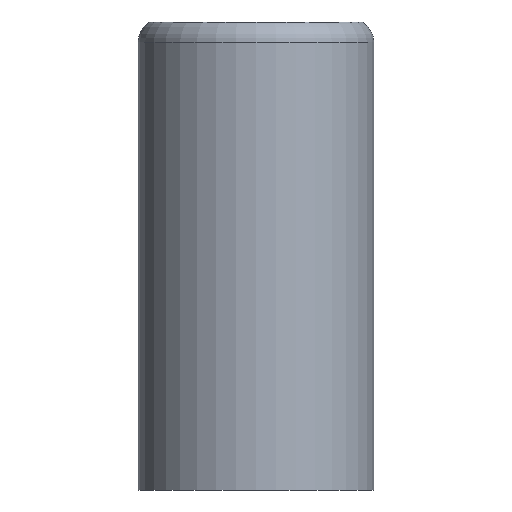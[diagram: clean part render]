
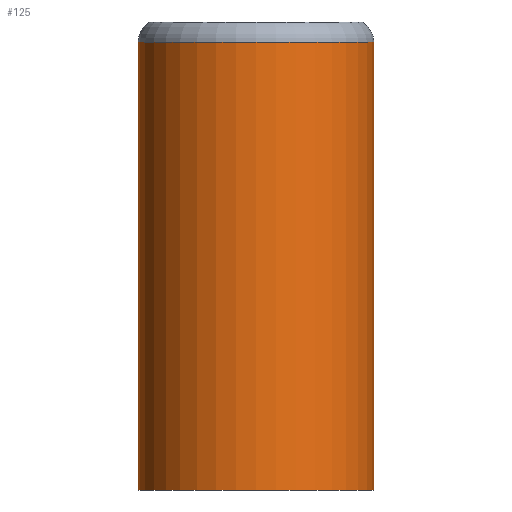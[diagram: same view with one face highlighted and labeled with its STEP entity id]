
A CAD part, front view. The second image highlights one B-rep face of the part: STEP entity #125.
In plain terms, the highlighted cylindrical face has radius 5 mm (diameter 10 mm), a full revolution.
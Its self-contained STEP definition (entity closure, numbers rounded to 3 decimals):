
#125=ADVANCED_FACE('',(#224,#226),#228,.T.);
#224=FACE_OUTER_BOUND('',#225,.T.);
#225=EDGE_LOOP('',(#267));
#226=FACE_OUTER_BOUND('',#227,.T.);
#227=EDGE_LOOP('',(#268));
#228=CYLINDRICAL_SURFACE('',#229,5.);
#229=AXIS2_PLACEMENT_3D('',#230,#231,#232);
#230=CARTESIAN_POINT('',(0.,0.,0.));
#231=DIRECTION('',(0.,0.,1.));
#232=DIRECTION('',(-1.,0.,0.));
#267=ORIENTED_EDGE('',*,*,#282,.F.);
#268=ORIENTED_EDGE('',*,*,#281,.T.);
#281=EDGE_CURVE('',#300,#300,#301,.T.);
#282=EDGE_CURVE('',#302,#302,#303,.T.);
#300=VERTEX_POINT('',#346);
#301=CIRCLE('',#347,5.);
#302=VERTEX_POINT('',#351);
#303=CIRCLE('',#352,5.);
#346=CARTESIAN_POINT('',(-5.,0.,0.));
#347=AXIS2_PLACEMENT_3D('',#348,#349,#350);
#348=CARTESIAN_POINT('',(0.,0.,0.));
#349=DIRECTION('',(0.,0.,1.));
#350=DIRECTION('',(-1.,0.,0.));
#351=CARTESIAN_POINT('',(-5.,0.,19.));
#352=AXIS2_PLACEMENT_3D('',#353,#354,#355);
#353=CARTESIAN_POINT('',(0.,0.,19.));
#354=DIRECTION('',(0.,0.,1.));
#355=DIRECTION('',(-1.,0.,0.));
